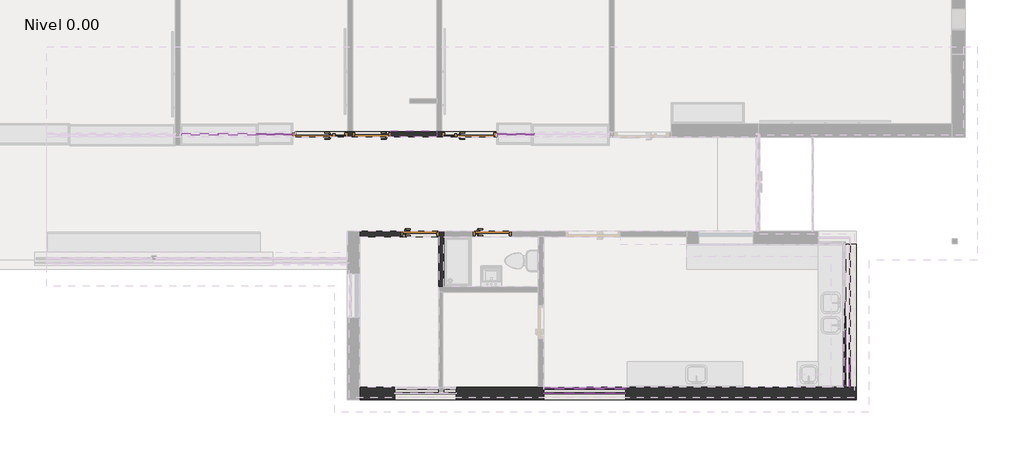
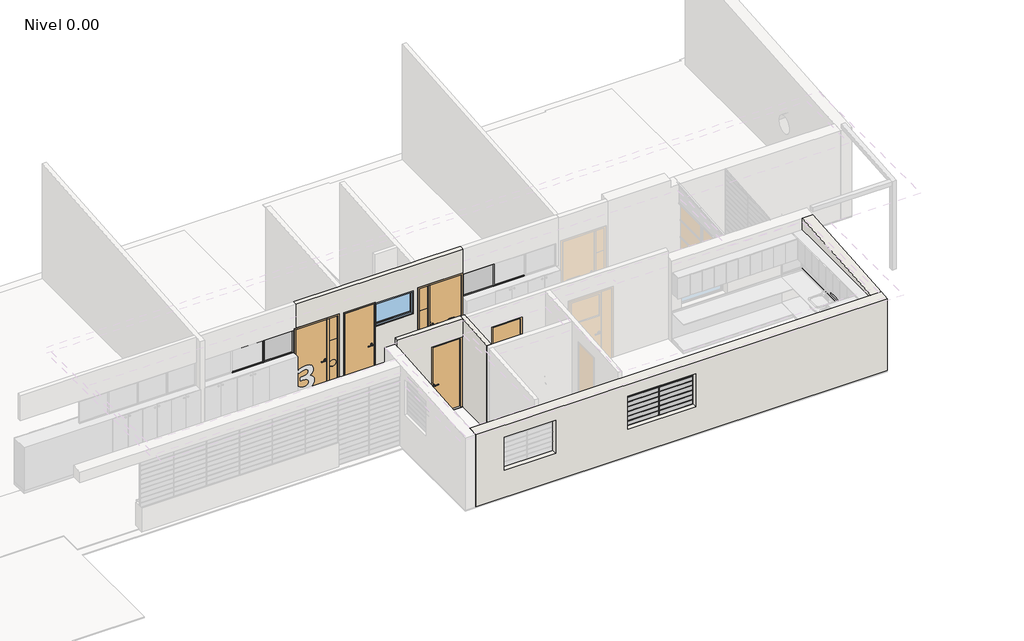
# One storey, part 9 of 27: 70 members, 27 plates, 5 doors, 5 walls, 1 window.
"""IFC4 building model written with IfcOpenShell, lengths in millimetres."""

from ifc_helpers import new_model, si_unit, origin, place, context, project, spatial, faceted_brep, transform, mapped, element, save
from components import puerta_c_02_04_c02_900x2100mm_8723c3b4, puerta_c_03_c03_1300x2100mm_be522cc0, puerta_c_03_c03_1300x2100mm_f842b1da, circular_mullion_db63050f, circular_mullion_800c9cf9, l_corner_mullion_7bb9dce8, l_corner_mullion_53c66c15, rectangular_mullion_97640366, rectangular_mullion_f4aebcd0, rectangular_mullion_6dd91873, rectangular_mullion_583ac604, rectangular_mullion_1f0e14fc, rectangular_mullion_1122452d, rectangular_mullion_4edd1dab, rectangular_mullion_5f2e1c77, rectangular_mullion_a87e72df, rectangular_mullion_5c6d569c, rectangular_mullion_931534db, rectangular_mullion_2d022f73, rectangular_mullion_e90513ae, rectangular_mullion_e335d830, rectangular_mullion_bfd1b04e, rectangular_mullion_af5448d7, rectangular_mullion_0e712f1e, rectangular_mullion_3ce97fec, system_panel_92242c99, system_panel_cfc7fda5, system_panel_57a81bb3, system_panel_e062d6e0, system_panel_glazed_a2efd868, system_panel_glazed_c003b5f8, system_panel_glazed_eadaaaed, system_panel_glazed_88139816, system_panel_glazed_9cce16fc, ventana_fija_1100x700mm_019d46d4

model = new_model("IFC4")

# Units and contexts
model_context = context("Model", 3, world=origin())
ifc_project = project(units=[si_unit("LENGTHUNIT", "METRE", prefix="MILLI")], contexts=[model_context])

# Site, building, storey
site = spatial("IfcSite", under=ifc_project)
building = spatial("IfcBuilding", under=site)
storey = spatial("IfcBuildingStorey", under=building, Name="Nivel 0.00", Elevation=0.0)

# Doors
placement = place(None, origin())
puerta_c_02_04_c02_900x2100mm_shape = puerta_c_02_04_c02_900x2100mm_8723c3b4(model_context)
element("IfcDoor", 1, ObjectType="PUERTA_C-02_04 : C02_900X2100mm", at=placement, inside=storey, context=model_context, shape_type="MappedRepresentation", body=[
    mapped(puerta_c_02_04_c02_900x2100mm_shape, transform((6673.7539617, -3156.9556693, 0.0), x_axis=(1.0, 0.0, 0.0), y_axis=(0.0, 1.0, 0.0), z_axis=(0.0, 0.0, 1.0))),
])
element("IfcDoor", 2, ObjectType="PUERTA_C-02_04 : C02_900X2100mm", at=placement, inside=storey, context=model_context, shape_type="MappedRepresentation", body=[
    mapped(puerta_c_02_04_c02_900x2100mm_shape, transform((3804.3810741, -774.2547653, 0.0), x_axis=(-1.0, 0.0, 0.0), y_axis=(0.0, -1.0, 0.0), z_axis=(0.0, 0.0, 1.0))),
])
element("IfcDoor", 3, ObjectType="PUERTA_C-02_04 : C04_900X2100mm", at=placement, inside=storey, context=model_context, shape_type="MappedRepresentation", body=[
    mapped(puerta_c_02_04_c02_900x2100mm_shape, transform((4949.9778804, -3156.9556693, 0.0), x_axis=(1.0, 0.0, 0.0), y_axis=(0.0, 1.0, 0.0), z_axis=(0.0, 0.0, 1.0))),
])
puerta_c_03_c03_1300x2100mm_shape = puerta_c_03_c03_1300x2100mm_be522cc0(model_context)
element("IfcDoor", 4, ObjectType="PUERTA_C-03 : C03_1300X2100mm", at=placement, inside=storey, context=model_context, shape_type="MappedRepresentation", body=[
    mapped(puerta_c_03_c03_1300x2100mm_shape, transform((2584.4310013, -774.2547653, 0.0), x_axis=(1.0, 0.0, 0.0), y_axis=(0.0, 1.0, 0.0), z_axis=(0.0, 0.0, 1.0))),
])
puerta_c_03_c03_1300x2100mm_2_shape = puerta_c_03_c03_1300x2100mm_f842b1da(model_context)
element("IfcDoor", 5, ObjectType="PUERTA_C-03 : C03_1300X2100mm", at=placement, inside=storey, context=model_context, shape_type="MappedRepresentation", body=[
    mapped(puerta_c_03_c03_1300x2100mm_2_shape, transform((6124.3567784, -774.2547653, 0.0), x_axis=(-1.0, 0.0, 0.0), y_axis=(0.0, -1.0, 0.0), z_axis=(0.0, 0.0, 1.0))),
])

# Members
circular_mullion_shape = circular_mullion_db63050f(model_context)
element("IfcMember", 6, ObjectType="Circular Mullion : ARQ_HERR_16mm", at=placement, inside=storey, context=model_context, shape_type="MappedRepresentation", body=[
    mapped(circular_mullion_shape, transform((8863.7685071, -6940.6055729, 942.8571429), x_axis=(0.0, 0.0, 1.0), y_axis=(0.0, -1.0, 0.0), z_axis=(1.0, 0.0, 0.0))),
])
element("IfcMember", 7, ObjectType="Circular Mullion : ARQ_HERR_16mm", at=placement, inside=storey, context=model_context, shape_type="MappedRepresentation", body=[
    mapped(circular_mullion_shape, transform((9837.2855196, -6940.6055729, 942.8571429), x_axis=(0.0, 0.0, 1.0), y_axis=(0.0, -1.0, 0.0), z_axis=(1.0, 0.0, 0.0))),
])
element("IfcMember", 8, ObjectType="Circular Mullion : ARQ_HERR_16mm", at=placement, inside=storey, context=model_context, shape_type="MappedRepresentation", body=[
    mapped(circular_mullion_shape, transform((8863.7685071, -6940.6055729, 1085.7142857), x_axis=(0.0, 0.0, 1.0), y_axis=(0.0, -1.0, 0.0), z_axis=(1.0, 0.0, 0.0))),
])
element("IfcMember", 9, ObjectType="Circular Mullion : ARQ_HERR_16mm", at=placement, inside=storey, context=model_context, shape_type="MappedRepresentation", body=[
    mapped(circular_mullion_shape, transform((9837.2855196, -6940.6055729, 1085.7142857), x_axis=(0.0, 0.0, 1.0), y_axis=(0.0, -1.0, 0.0), z_axis=(1.0, 0.0, 0.0))),
])
element("IfcMember", 10, ObjectType="Circular Mullion : ARQ_HERR_16mm", at=placement, inside=storey, context=model_context, shape_type="MappedRepresentation", body=[
    mapped(circular_mullion_shape, transform((8863.7685071, -6940.6055729, 1228.5714286), x_axis=(0.0, 0.0, 1.0), y_axis=(0.0, -1.0, 0.0), z_axis=(1.0, 0.0, 0.0))),
])
element("IfcMember", 11, ObjectType="Circular Mullion : ARQ_HERR_16mm", at=placement, inside=storey, context=model_context, shape_type="MappedRepresentation", body=[
    mapped(circular_mullion_shape, transform((9837.2855196, -6940.6055729, 1228.5714286), x_axis=(0.0, 0.0, 1.0), y_axis=(0.0, -1.0, 0.0), z_axis=(1.0, 0.0, 0.0))),
])
element("IfcMember", 12, ObjectType="Circular Mullion : ARQ_HERR_16mm", at=placement, inside=storey, context=model_context, shape_type="MappedRepresentation", body=[
    mapped(circular_mullion_shape, transform((8863.7685071, -6940.6055729, 1371.4285714), x_axis=(0.0, 0.0, 1.0), y_axis=(0.0, -1.0, 0.0), z_axis=(1.0, 0.0, 0.0))),
])
element("IfcMember", 13, ObjectType="Circular Mullion : ARQ_HERR_16mm", at=placement, inside=storey, context=model_context, shape_type="MappedRepresentation", body=[
    mapped(circular_mullion_shape, transform((9837.2855196, -6940.6055729, 1371.4285714), x_axis=(0.0, 0.0, 1.0), y_axis=(0.0, -1.0, 0.0), z_axis=(1.0, 0.0, 0.0))),
])
element("IfcMember", 14, ObjectType="Circular Mullion : ARQ_HERR_16mm", at=placement, inside=storey, context=model_context, shape_type="MappedRepresentation", body=[
    mapped(circular_mullion_shape, transform((8863.7685071, -6940.6055729, 1514.2857143), x_axis=(0.0, 0.0, 1.0), y_axis=(0.0, -1.0, 0.0), z_axis=(1.0, 0.0, 0.0))),
])
element("IfcMember", 15, ObjectType="Circular Mullion : ARQ_HERR_16mm", at=placement, inside=storey, context=model_context, shape_type="MappedRepresentation", body=[
    mapped(circular_mullion_shape, transform((9837.2855196, -6940.6055729, 1514.2857143), x_axis=(0.0, 0.0, 1.0), y_axis=(0.0, -1.0, 0.0), z_axis=(1.0, 0.0, 0.0))),
])
element("IfcMember", 16, ObjectType="Circular Mullion : ARQ_HERR_16mm", at=placement, inside=storey, context=model_context, shape_type="MappedRepresentation", body=[
    mapped(circular_mullion_shape, transform((8863.7685071, -6940.6055729, 1657.1428571), x_axis=(0.0, 0.0, 1.0), y_axis=(0.0, -1.0, 0.0), z_axis=(1.0, 0.0, 0.0))),
])
element("IfcMember", 17, ObjectType="Circular Mullion : ARQ_HERR_16mm", at=placement, inside=storey, context=model_context, shape_type="MappedRepresentation", body=[
    mapped(circular_mullion_shape, transform((9837.2855196, -6940.6055729, 1657.1428571), x_axis=(0.0, 0.0, 1.0), y_axis=(0.0, -1.0, 0.0), z_axis=(1.0, 0.0, 0.0))),
])
circular_mullion_2_shape = circular_mullion_800c9cf9(model_context)
element("IfcMember", 18, ObjectType="Circular Mullion : ARQ_HERR_16mm", at=placement, inside=storey, context=model_context, shape_type="MappedRepresentation", body=[
    mapped(circular_mullion_2_shape, transform((15175.5015264, -6081.6831077, 1087.5), x_axis=(0.0, 0.0, 1.0), y_axis=(1.0, 0.0, 0.0), z_axis=(0.0, 1.0, 0.0))),
])
element("IfcMember", 19, ObjectType="Circular Mullion : ARQ_HERR_16mm", at=placement, inside=storey, context=model_context, shape_type="MappedRepresentation", body=[
    mapped(circular_mullion_2_shape, transform((15175.5015264, -6081.6831077, 1225.0), x_axis=(0.0, 0.0, 1.0), y_axis=(1.0, 0.0, 0.0), z_axis=(0.0, 1.0, 0.0))),
])
element("IfcMember", 20, ObjectType="Circular Mullion : ARQ_HERR_16mm", at=placement, inside=storey, context=model_context, shape_type="MappedRepresentation", body=[
    mapped(circular_mullion_2_shape, transform((15175.5015264, -6081.6831077, 1362.5), x_axis=(0.0, 0.0, 1.0), y_axis=(1.0, 0.0, 0.0), z_axis=(0.0, 1.0, 0.0))),
])
l_corner_mullion_shape = l_corner_mullion_7bb9dce8(model_context)
element("IfcMember", 21, ObjectType="L Corner Mullion : ARQ_HERR_15X6mm", at=placement, inside=storey, context=model_context, shape_type="MappedRepresentation", body=[
    mapped(l_corner_mullion_shape, transform((9837.2855196, -6940.6055729, 1800.0), x_axis=(0.0, 0.0, 1.0), y_axis=(0.0, -1.0, 0.0), z_axis=(1.0, 0.0, 0.0))),
])
element("IfcMember", 22, ObjectType="L Corner Mullion : ARQ_HERR_15X6mm", at=placement, inside=storey, context=model_context, shape_type="MappedRepresentation", body=[
    mapped(l_corner_mullion_shape, transform((8863.7685071, -6940.6055729, 1800.0), x_axis=(0.0, 0.0, 1.0), y_axis=(0.0, -1.0, 0.0), z_axis=(1.0, 0.0, 0.0))),
])
element("IfcMember", 23, ObjectType="L Corner Mullion : ARQ_HERR_15X6mm", at=placement, inside=storey, context=model_context, shape_type="MappedRepresentation", body=[
    mapped(l_corner_mullion_shape, transform((8869.7685071, -6940.6055729, 800.0), x_axis=(0.0, 0.0, -1.0), y_axis=(0.0, -1.0, 0.0), z_axis=(-1.0, 0.0, 0.0))),
])
l_corner_mullion_2_shape = l_corner_mullion_53c66c15(model_context)
element("IfcMember", 24, ObjectType="L Corner Mullion : ARQ_HERR_15X6mm", at=placement, inside=storey, context=model_context, shape_type="MappedRepresentation", body=[
    mapped(l_corner_mullion_2_shape, transform((15175.5015264, -6081.6831077, 1500.0), x_axis=(0.0, 0.0, 1.0), y_axis=(1.0, 0.0, 0.0), z_axis=(0.0, 1.0, 0.0))),
])
element("IfcMember", 25, ObjectType="L Corner Mullion : ARQ_HERR_15X6mm", at=placement, inside=storey, context=model_context, shape_type="MappedRepresentation", body=[
    mapped(l_corner_mullion_2_shape, transform((15175.5015264, -6784.4379451, 950.0), x_axis=(0.0, 0.0, -1.0), y_axis=(1.0, 0.0, 0.0), z_axis=(0.0, -1.0, 0.0))),
])
element("IfcMember", 26, ObjectType="L Corner Mullion : ARQ_HERR_15X6mm", at=placement, inside=storey, context=model_context, shape_type="MappedRepresentation", body=[
    mapped(l_corner_mullion_2_shape, transform((15175.5015264, -6075.6831077, 950.0), x_axis=(0.0, 0.0, -1.0), y_axis=(1.0, 0.0, 0.0), z_axis=(0.0, -1.0, 0.0))),
])
rectangular_mullion_shape = rectangular_mullion_97640366(model_context)
element("IfcMember", 27, ObjectType="Rectangular Mullion : ARQ_TV_MULL_50x30mm", at=placement, inside=storey, context=model_context, shape_type="MappedRepresentation", body=[
    mapped(rectangular_mullion_shape, transform((15050.5015264, -6134.61721, 1500.0), x_axis=(0.0, 0.0, 1.0), y_axis=(1.0, 0.0, 0.0), z_axis=(0.0, 1.0, 0.0))),
])
rectangular_mullion_2_shape = rectangular_mullion_f4aebcd0(model_context)
element("IfcMember", 28, ObjectType="Rectangular Mullion : ARQ_TV_MULL_50x30mm", at=placement, inside=storey, context=model_context, shape_type="MappedRepresentation", body=[
    mapped(rectangular_mullion_2_shape, transform((15050.5015264, -5448.6288474, 1500.0), x_axis=(0.0, 0.0, 1.0), y_axis=(1.0, 0.0, 0.0), z_axis=(0.0, 1.0, 0.0))),
])
element("IfcMember", 29, ObjectType="Rectangular Mullion : ARQ_TV_MULL_50x30mm", at=placement, inside=storey, context=model_context, shape_type="MappedRepresentation", body=[
    mapped(rectangular_mullion_shape, transform((15050.5015264, -6760.6055729, 950.0), x_axis=(0.0, 0.0, -1.0), y_axis=(1.0, 0.0, 0.0), z_axis=(0.0, -1.0, 0.0))),
])
element("IfcMember", 30, ObjectType="Rectangular Mullion : ARQ_TV_MULL_50x30mm", at=placement, inside=storey, context=model_context, shape_type="MappedRepresentation", body=[
    mapped(rectangular_mullion_2_shape, transform((15050.5015264, -6104.61721, 950.0), x_axis=(0.0, 0.0, -1.0), y_axis=(1.0, 0.0, 0.0), z_axis=(0.0, -1.0, 0.0))),
])
rectangular_mullion_3_shape = rectangular_mullion_6dd91873(model_context)
element("IfcMember", 31, ObjectType="Rectangular Mullion : ARQ_TV_MULL_50x30mm", at=placement, inside=storey, context=model_context, shape_type="MappedRepresentation", body=[
    mapped(rectangular_mullion_3_shape, transform((15050.5015264, -6790.6055729, 1500.0), x_axis=(0.0, -1.0, 0.0), y_axis=(1.0, 0.0, 0.0), z_axis=(0.0, 0.0, 1.0))),
])
rectangular_mullion_4_shape = rectangular_mullion_583ac604(model_context)
element("IfcMember", 32, ObjectType="Rectangular Mullion : ARQ_TV_MULL_50x30mm", at=placement, inside=storey, context=model_context, shape_type="MappedRepresentation", body=[
    mapped(rectangular_mullion_4_shape, transform((15050.5015264, -6119.61721, 950.0), x_axis=(0.0, 1.0, 0.0), y_axis=(1.0, 0.0, 0.0), z_axis=(0.0, 0.0, -1.0))),
])
rectangular_mullion_5_shape = rectangular_mullion_1f0e14fc(model_context)
element("IfcMember", 33, ObjectType="Rectangular Mullion : ARQ_TV_MULL_50x30mm", at=placement, inside=storey, context=model_context, shape_type="MappedRepresentation", body=[
    mapped(rectangular_mullion_5_shape, transform((9813.2855196, -6815.6055729, 1800.0), x_axis=(0.0, 0.0, 1.0), y_axis=(0.0, -1.0, 0.0), z_axis=(1.0, 0.0, 0.0))),
])
element("IfcMember", 34, ObjectType="Rectangular Mullion : ARQ_TV_MULL_50x30mm", at=placement, inside=storey, context=model_context, shape_type="MappedRepresentation", body=[
    mapped(rectangular_mullion_5_shape, transform((8851.7685071, -6815.6055729, 1800.0), x_axis=(0.0, 0.0, 1.0), y_axis=(0.0, -1.0, 0.0), z_axis=(1.0, 0.0, 0.0))),
])
element("IfcMember", 35, ObjectType="Rectangular Mullion : ARQ_TV_MULL_50x30mm", at=placement, inside=storey, context=model_context, shape_type="MappedRepresentation", body=[
    mapped(rectangular_mullion_5_shape, transform((8881.7685071, -6815.6055729, 800.0), x_axis=(0.0, 0.0, -1.0), y_axis=(0.0, -1.0, 0.0), z_axis=(-1.0, 0.0, 0.0))),
])
rectangular_mullion_6_shape = rectangular_mullion_1122452d(model_context)
element("IfcMember", 36, ObjectType="Rectangular Mullion : ARQ_TV_MULL_50x30mm", at=placement, inside=storey, context=model_context, shape_type="MappedRepresentation", body=[
    mapped(rectangular_mullion_6_shape, transform((8851.7685071, -6815.6055729, 1300.0), x_axis=(0.0, 0.0, 1.0), y_axis=(0.0, -1.0, 0.0), z_axis=(1.0, 0.0, 0.0))),
])
element("IfcMember", 37, ObjectType="Rectangular Mullion : ARQ_TV_MULL_50x30mm", at=placement, inside=storey, context=model_context, shape_type="MappedRepresentation", body=[
    mapped(rectangular_mullion_6_shape, transform((9813.2855196, -6815.6055729, 1300.0), x_axis=(0.0, 0.0, 1.0), y_axis=(0.0, -1.0, 0.0), z_axis=(1.0, 0.0, 0.0))),
])
rectangular_mullion_7_shape = rectangular_mullion_4edd1dab(model_context)
element("IfcMember", 38, ObjectType="Rectangular Mullion : ARQ_TV_MULL_50x30mm", at=placement, inside=storey, context=model_context, shape_type="MappedRepresentation", body=[
    mapped(rectangular_mullion_7_shape, transform((8866.7685071, -6815.6055729, 800.0), x_axis=(1.0, 0.0, 0.0), y_axis=(0.0, -1.0, 0.0), z_axis=(0.0, 0.0, -1.0))),
])
element("IfcMember", 39, ObjectType="Rectangular Mullion : ARQ_TV_MULL_50x30mm", at=placement, inside=storey, context=model_context, shape_type="MappedRepresentation", body=[
    mapped(rectangular_mullion_7_shape, transform((8866.7685071, -6815.6055729, 1300.0), x_axis=(1.0, 0.0, 0.0), y_axis=(0.0, -1.0, 0.0), z_axis=(0.0, 0.0, -1.0))),
])
rectangular_mullion_8_shape = rectangular_mullion_5f2e1c77(model_context)
element("IfcMember", 40, ObjectType="Rectangular Mullion : ARQ_TV_MULL_50x30mm", at=placement, inside=storey, context=model_context, shape_type="MappedRepresentation", body=[
    mapped(rectangular_mullion_8_shape, transform((9843.2855196, -6815.6055729, 800.0), x_axis=(1.0, 0.0, 0.0), y_axis=(0.0, -1.0, 0.0), z_axis=(0.0, 0.0, -1.0))),
])
element("IfcMember", 41, ObjectType="Rectangular Mullion : ARQ_TV_MULL_50x30mm", at=placement, inside=storey, context=model_context, shape_type="MappedRepresentation", body=[
    mapped(rectangular_mullion_8_shape, transform((9843.2855196, -6815.6055729, 1300.0), x_axis=(1.0, 0.0, 0.0), y_axis=(0.0, -1.0, 0.0), z_axis=(0.0, 0.0, -1.0))),
])
rectangular_mullion_9_shape = rectangular_mullion_a87e72df(model_context)
element("IfcMember", 42, ObjectType="Rectangular Mullion : ARQ_TV_MULL_50x30mm", at=placement, inside=storey, context=model_context, shape_type="MappedRepresentation", body=[
    mapped(rectangular_mullion_9_shape, transform((1079.4306871, -780.6047653, 1400.0), x_axis=(1.0, 0.0, 0.0), y_axis=(0.0, -1.0, 0.0), z_axis=(0.0, 0.0, -1.0))),
])
element("IfcMember", 43, ObjectType="Rectangular Mullion : ARQ_TV_MULL_50x30mm", at=placement, inside=storey, context=model_context, shape_type="MappedRepresentation", body=[
    mapped(rectangular_mullion_9_shape, transform((7682.6901119, -780.6047653, 1400.0), x_axis=(1.0, 0.0, 0.0), y_axis=(0.0, -1.0, 0.0), z_axis=(0.0, 0.0, -1.0))),
])
rectangular_mullion_10_shape = rectangular_mullion_5c6d569c(model_context)
element("IfcMember", 44, ObjectType="Rectangular Mullion : ARQ_TV_MULL_50x30mm", at=placement, inside=storey, context=model_context, shape_type="MappedRepresentation", body=[
    mapped(rectangular_mullion_10_shape, transform((1934.4310013, -780.6047653, 1400.0), x_axis=(1.0, 0.0, 0.0), y_axis=(0.0, -1.0, 0.0), z_axis=(0.0, 0.0, -1.0))),
])
element("IfcMember", 45, ObjectType="Rectangular Mullion : ARQ_TV_MULL_50x30mm", at=placement, inside=storey, context=model_context, shape_type="MappedRepresentation", body=[
    mapped(rectangular_mullion_10_shape, transform((6774.3567784, -780.6047653, 2100.0), x_axis=(-1.0, 0.0, 0.0), y_axis=(0.0, -1.0, 0.0), z_axis=(0.0, 0.0, 1.0))),
])
rectangular_mullion_11_shape = rectangular_mullion_931534db(model_context)
element("IfcMember", 46, ObjectType="Rectangular Mullion : ARQ_TV_MULL_50x30mm", at=placement, inside=storey, context=model_context, shape_type="MappedRepresentation", body=[
    mapped(rectangular_mullion_11_shape, transform((1904.4310013, -780.6047653, 2100.0), x_axis=(0.0, 0.0, 1.0), y_axis=(0.0, -1.0, 0.0), z_axis=(1.0, 0.0, 0.0))),
])
rectangular_mullion_12_shape = rectangular_mullion_2d022f73(model_context)
element("IfcMember", 47, ObjectType="Rectangular Mullion : ARQ_TV_MULL_50x30mm", at=placement, inside=storey, context=model_context, shape_type="MappedRepresentation", body=[
    mapped(rectangular_mullion_12_shape, transform((144.4306873, -780.6047653, 2100.0), x_axis=(0.0, 0.0, 1.0), y_axis=(0.0, -1.0, 0.0), z_axis=(1.0, 0.0, 0.0))),
])
rectangular_mullion_13_shape = rectangular_mullion_e90513ae(model_context)
element("IfcMember", 48, ObjectType="Rectangular Mullion : ARQ_TV_MULL_50x30mm", at=placement, inside=storey, context=model_context, shape_type="MappedRepresentation", body=[
    mapped(rectangular_mullion_13_shape, transform((1064.4306871, -780.6047653, 2100.0), x_axis=(0.0, 0.0, 1.0), y_axis=(0.0, -1.0, 0.0), z_axis=(1.0, 0.0, 0.0))),
])
element("IfcMember", 49, ObjectType="Rectangular Mullion : ARQ_TV_MULL_50x30mm", at=placement, inside=storey, context=model_context, shape_type="MappedRepresentation", body=[
    mapped(rectangular_mullion_13_shape, transform((174.4306873, -780.6047653, 1400.0), x_axis=(0.0, 0.0, -1.0), y_axis=(0.0, -1.0, 0.0), z_axis=(-1.0, 0.0, 0.0))),
])
element("IfcMember", 50, ObjectType="Rectangular Mullion : ARQ_TV_MULL_50x30mm", at=placement, inside=storey, context=model_context, shape_type="MappedRepresentation", body=[
    mapped(rectangular_mullion_11_shape, transform((1094.4306871, -780.6047653, 1400.0), x_axis=(0.0, 0.0, -1.0), y_axis=(0.0, -1.0, 0.0), z_axis=(-1.0, 0.0, 0.0))),
])
rectangular_mullion_14_shape = rectangular_mullion_e335d830(model_context)
element("IfcMember", 51, ObjectType="Rectangular Mullion : ARQ_TV_MULL_50x30mm", at=placement, inside=storey, context=model_context, shape_type="MappedRepresentation", body=[
    mapped(rectangular_mullion_14_shape, transform((7667.6901119, -780.6047653, 2100.0), x_axis=(0.0, 0.0, 1.0), y_axis=(0.0, -1.0, 0.0), z_axis=(1.0, 0.0, 0.0))),
])
element("IfcMember", 52, ObjectType="Rectangular Mullion : ARQ_TV_MULL_50x30mm", at=placement, inside=storey, context=model_context, shape_type="MappedRepresentation", body=[
    mapped(rectangular_mullion_14_shape, transform((6804.3567784, -780.6047653, 1400.0), x_axis=(0.0, 0.0, -1.0), y_axis=(0.0, -1.0, 0.0), z_axis=(-1.0, 0.0, 0.0))),
])
element("IfcMember", 53, ObjectType="Rectangular Mullion : ARQ_TV_MULL_50x30mm", at=placement, inside=storey, context=model_context, shape_type="MappedRepresentation", body=[
    mapped(rectangular_mullion_14_shape, transform((7697.6901119, -780.6047653, 1400.0), x_axis=(0.0, 0.0, -1.0), y_axis=(0.0, -1.0, 0.0), z_axis=(-1.0, 0.0, 0.0))),
])
rectangular_mullion_15_shape = rectangular_mullion_bfd1b04e(model_context)
element("IfcMember", 54, ObjectType="Rectangular Mullion : ARQ_HERR_15X6mm", at=placement, inside=storey, context=model_context, shape_type="MappedRepresentation", body=[
    mapped(rectangular_mullion_15_shape, transform((8866.7685071, -6940.6055729, 800.0), x_axis=(1.0, 0.0, 0.0), y_axis=(0.0, -1.0, 0.0), z_axis=(0.0, 0.0, -1.0))),
])
element("IfcMember", 55, ObjectType="Rectangular Mullion : ARQ_HERR_15X6mm", at=placement, inside=storey, context=model_context, shape_type="MappedRepresentation", body=[
    mapped(rectangular_mullion_15_shape, transform((8866.7685071, -6940.6055729, 942.8571429), x_axis=(1.0, 0.0, 0.0), y_axis=(0.0, -1.0, 0.0), z_axis=(0.0, 0.0, -1.0))),
])
element("IfcMember", 56, ObjectType="Rectangular Mullion : ARQ_HERR_15X6mm", at=placement, inside=storey, context=model_context, shape_type="MappedRepresentation", body=[
    mapped(rectangular_mullion_15_shape, transform((8866.7685071, -6940.6055729, 1085.7142857), x_axis=(1.0, 0.0, 0.0), y_axis=(0.0, -1.0, 0.0), z_axis=(0.0, 0.0, -1.0))),
])
element("IfcMember", 57, ObjectType="Rectangular Mullion : ARQ_HERR_15X6mm", at=placement, inside=storey, context=model_context, shape_type="MappedRepresentation", body=[
    mapped(rectangular_mullion_15_shape, transform((8866.7685071, -6940.6055729, 1228.5714286), x_axis=(1.0, 0.0, 0.0), y_axis=(0.0, -1.0, 0.0), z_axis=(0.0, 0.0, -1.0))),
])
element("IfcMember", 58, ObjectType="Rectangular Mullion : ARQ_HERR_15X6mm", at=placement, inside=storey, context=model_context, shape_type="MappedRepresentation", body=[
    mapped(rectangular_mullion_15_shape, transform((8866.7685071, -6940.6055729, 1371.4285714), x_axis=(1.0, 0.0, 0.0), y_axis=(0.0, -1.0, 0.0), z_axis=(0.0, 0.0, -1.0))),
])
element("IfcMember", 59, ObjectType="Rectangular Mullion : ARQ_HERR_15X6mm", at=placement, inside=storey, context=model_context, shape_type="MappedRepresentation", body=[
    mapped(rectangular_mullion_15_shape, transform((8866.7685071, -6940.6055729, 1514.2857143), x_axis=(1.0, 0.0, 0.0), y_axis=(0.0, -1.0, 0.0), z_axis=(0.0, 0.0, -1.0))),
])
element("IfcMember", 60, ObjectType="Rectangular Mullion : ARQ_HERR_15X6mm", at=placement, inside=storey, context=model_context, shape_type="MappedRepresentation", body=[
    mapped(rectangular_mullion_15_shape, transform((8866.7685071, -6940.6055729, 1657.1428571), x_axis=(1.0, 0.0, 0.0), y_axis=(0.0, -1.0, 0.0), z_axis=(0.0, 0.0, -1.0))),
])
rectangular_mullion_16_shape = rectangular_mullion_af5448d7(model_context)
element("IfcMember", 61, ObjectType="Rectangular Mullion : ARQ_HERR_15X6mm", at=placement, inside=storey, context=model_context, shape_type="MappedRepresentation", body=[
    mapped(rectangular_mullion_16_shape, transform((9843.2855196, -6940.6055729, 800.0), x_axis=(1.0, 0.0, 0.0), y_axis=(0.0, -1.0, 0.0), z_axis=(0.0, 0.0, -1.0))),
])
element("IfcMember", 62, ObjectType="Rectangular Mullion : ARQ_HERR_15X6mm", at=placement, inside=storey, context=model_context, shape_type="MappedRepresentation", body=[
    mapped(rectangular_mullion_16_shape, transform((9843.2855196, -6940.6055729, 942.8571429), x_axis=(1.0, 0.0, 0.0), y_axis=(0.0, -1.0, 0.0), z_axis=(0.0, 0.0, -1.0))),
])
element("IfcMember", 63, ObjectType="Rectangular Mullion : ARQ_HERR_15X6mm", at=placement, inside=storey, context=model_context, shape_type="MappedRepresentation", body=[
    mapped(rectangular_mullion_16_shape, transform((9843.2855196, -6940.6055729, 1085.7142857), x_axis=(1.0, 0.0, 0.0), y_axis=(0.0, -1.0, 0.0), z_axis=(0.0, 0.0, -1.0))),
])
element("IfcMember", 64, ObjectType="Rectangular Mullion : ARQ_HERR_15X6mm", at=placement, inside=storey, context=model_context, shape_type="MappedRepresentation", body=[
    mapped(rectangular_mullion_16_shape, transform((9843.2855196, -6940.6055729, 1228.5714286), x_axis=(1.0, 0.0, 0.0), y_axis=(0.0, -1.0, 0.0), z_axis=(0.0, 0.0, -1.0))),
])
element("IfcMember", 65, ObjectType="Rectangular Mullion : ARQ_HERR_15X6mm", at=placement, inside=storey, context=model_context, shape_type="MappedRepresentation", body=[
    mapped(rectangular_mullion_16_shape, transform((9843.2855196, -6940.6055729, 1371.4285714), x_axis=(1.0, 0.0, 0.0), y_axis=(0.0, -1.0, 0.0), z_axis=(0.0, 0.0, -1.0))),
])
element("IfcMember", 66, ObjectType="Rectangular Mullion : ARQ_HERR_15X6mm", at=placement, inside=storey, context=model_context, shape_type="MappedRepresentation", body=[
    mapped(rectangular_mullion_16_shape, transform((9843.2855196, -6940.6055729, 1514.2857143), x_axis=(1.0, 0.0, 0.0), y_axis=(0.0, -1.0, 0.0), z_axis=(0.0, 0.0, -1.0))),
])
element("IfcMember", 67, ObjectType="Rectangular Mullion : ARQ_HERR_15X6mm", at=placement, inside=storey, context=model_context, shape_type="MappedRepresentation", body=[
    mapped(rectangular_mullion_16_shape, transform((9843.2855196, -6940.6055729, 1657.1428571), x_axis=(1.0, 0.0, 0.0), y_axis=(0.0, -1.0, 0.0), z_axis=(0.0, 0.0, -1.0))),
])
rectangular_mullion_17_shape = rectangular_mullion_0e712f1e(model_context)
element("IfcMember", 68, ObjectType="Rectangular Mullion : ARQ_HERR_15X6mm", at=placement, inside=storey, context=model_context, shape_type="MappedRepresentation", body=[
    mapped(rectangular_mullion_17_shape, transform((15175.5015264, -6078.6831077, 950.0), x_axis=(0.0, 1.0, 0.0), y_axis=(1.0, 0.0, 0.0), z_axis=(0.0, 0.0, -1.0))),
])
element("IfcMember", 69, ObjectType="Rectangular Mullion : ARQ_HERR_15X6mm", at=placement, inside=storey, context=model_context, shape_type="MappedRepresentation", body=[
    mapped(rectangular_mullion_17_shape, transform((15175.5015264, -6078.6831077, 1087.5), x_axis=(0.0, 1.0, 0.0), y_axis=(1.0, 0.0, 0.0), z_axis=(0.0, 0.0, -1.0))),
])
element("IfcMember", 70, ObjectType="Rectangular Mullion : ARQ_HERR_15X6mm", at=placement, inside=storey, context=model_context, shape_type="MappedRepresentation", body=[
    mapped(rectangular_mullion_17_shape, transform((15175.5015264, -6078.6831077, 1225.0), x_axis=(0.0, 1.0, 0.0), y_axis=(1.0, 0.0, 0.0), z_axis=(0.0, 0.0, -1.0))),
])
element("IfcMember", 71, ObjectType="Rectangular Mullion : ARQ_HERR_15X6mm", at=placement, inside=storey, context=model_context, shape_type="MappedRepresentation", body=[
    mapped(rectangular_mullion_17_shape, transform((15175.5015264, -6078.6831077, 1362.5), x_axis=(0.0, 1.0, 0.0), y_axis=(1.0, 0.0, 0.0), z_axis=(0.0, 0.0, -1.0))),
])
rectangular_mullion_18_shape = rectangular_mullion_3ce97fec(model_context)
element("IfcMember", 72, ObjectType="Rectangular Mullion : ARQ_HERR_15X6mm", at=placement, inside=storey, context=model_context, shape_type="MappedRepresentation", body=[
    mapped(rectangular_mullion_18_shape, transform((15175.5015264, -6790.4379451, 1500.0), x_axis=(0.0, -1.0, 0.0), y_axis=(1.0, 0.0, 0.0), z_axis=(0.0, 0.0, 1.0))),
])
element("IfcMember", 73, ObjectType="Rectangular Mullion : ARQ_HERR_15X6mm", at=placement, inside=storey, context=model_context, shape_type="MappedRepresentation", body=[
    mapped(rectangular_mullion_18_shape, transform((15175.5015264, -6790.4379451, 1087.5), x_axis=(0.0, -1.0, 0.0), y_axis=(1.0, 0.0, 0.0), z_axis=(0.0, 0.0, 1.0))),
])
element("IfcMember", 74, ObjectType="Rectangular Mullion : ARQ_HERR_15X6mm", at=placement, inside=storey, context=model_context, shape_type="MappedRepresentation", body=[
    mapped(rectangular_mullion_18_shape, transform((15175.5015264, -6790.4379451, 1225.0), x_axis=(0.0, -1.0, 0.0), y_axis=(1.0, 0.0, 0.0), z_axis=(0.0, 0.0, 1.0))),
])
element("IfcMember", 75, ObjectType="Rectangular Mullion : ARQ_HERR_15X6mm", at=placement, inside=storey, context=model_context, shape_type="MappedRepresentation", body=[
    mapped(rectangular_mullion_18_shape, transform((15175.5015264, -6790.4379451, 1362.5), x_axis=(0.0, -1.0, 0.0), y_axis=(1.0, 0.0, 0.0), z_axis=(0.0, 0.0, 1.0))),
])

# Plates
system_panel_shape = system_panel_92242c99(model_context)
element("IfcPlate", 76, ObjectType="System Panel : VACÍO", at=placement, inside=storey, context=model_context, shape_type="MappedRepresentation", body=[
    mapped(system_panel_shape, transform((15175.5015264, -6433.0605264, 956.0), x_axis=(0.0, 1.0, 0.0), y_axis=(-1.0, 0.0, 0.0), z_axis=(0.0, 0.0, 1.0))),
])
element("IfcPlate", 77, ObjectType="System Panel : VACÍO", at=placement, inside=storey, context=model_context, shape_type="MappedRepresentation", body=[
    mapped(system_panel_shape, transform((15175.5015264, -6433.0605264, 1370.5), x_axis=(0.0, 1.0, 0.0), y_axis=(-1.0, 0.0, 0.0), z_axis=(0.0, 0.0, 1.0))),
])
system_panel_2_shape = system_panel_cfc7fda5(model_context)
element("IfcPlate", 78, ObjectType="System Panel : VACÍO", at=placement, inside=storey, context=model_context, shape_type="MappedRepresentation", body=[
    mapped(system_panel_2_shape, transform((8380.0100008, -6940.6055729, 806.0), x_axis=(1.0, 0.0, 0.0), y_axis=(0.0, 1.0, 0.0), z_axis=(0.0, 0.0, 1.0))),
])
element("IfcPlate", 79, ObjectType="System Panel : VACÍO", at=placement, inside=storey, context=model_context, shape_type="MappedRepresentation", body=[
    mapped(system_panel_2_shape, transform((9353.5270133, -6940.6055729, 806.0), x_axis=(1.0, 0.0, 0.0), y_axis=(0.0, 1.0, 0.0), z_axis=(0.0, 0.0, 1.0))),
])
element("IfcPlate", 80, ObjectType="System Panel : VACÍO", at=placement, inside=storey, context=model_context, shape_type="MappedRepresentation", body=[
    mapped(system_panel_2_shape, transform((8380.0100008, -6940.6055729, 1665.1428571), x_axis=(1.0, 0.0, 0.0), y_axis=(0.0, 1.0, 0.0), z_axis=(0.0, 0.0, 1.0))),
])
element("IfcPlate", 81, ObjectType="System Panel : VACÍO", at=placement, inside=storey, context=model_context, shape_type="MappedRepresentation", body=[
    mapped(system_panel_2_shape, transform((9353.5270133, -6940.6055729, 1665.1428571), x_axis=(1.0, 0.0, 0.0), y_axis=(0.0, 1.0, 0.0), z_axis=(0.0, 0.0, 1.0))),
])
system_panel_3_shape = system_panel_57a81bb3(model_context)
element("IfcPlate", 82, ObjectType="System Panel : VACÍO", at=placement, inside=storey, context=model_context, shape_type="MappedRepresentation", body=[
    mapped(system_panel_3_shape, transform((8380.0100008, -6940.6055729, 950.8571429), x_axis=(1.0, 0.0, 0.0), y_axis=(0.0, 1.0, 0.0), z_axis=(0.0, 0.0, 1.0))),
])
element("IfcPlate", 83, ObjectType="System Panel : VACÍO", at=placement, inside=storey, context=model_context, shape_type="MappedRepresentation", body=[
    mapped(system_panel_3_shape, transform((9353.5270133, -6940.6055729, 950.8571429), x_axis=(1.0, 0.0, 0.0), y_axis=(0.0, 1.0, 0.0), z_axis=(0.0, 0.0, 1.0))),
])
element("IfcPlate", 84, ObjectType="System Panel : VACÍO", at=placement, inside=storey, context=model_context, shape_type="MappedRepresentation", body=[
    mapped(system_panel_3_shape, transform((8380.0100008, -6940.6055729, 1093.7142857), x_axis=(1.0, 0.0, 0.0), y_axis=(0.0, 1.0, 0.0), z_axis=(0.0, 0.0, 1.0))),
])
element("IfcPlate", 85, ObjectType="System Panel : VACÍO", at=placement, inside=storey, context=model_context, shape_type="MappedRepresentation", body=[
    mapped(system_panel_3_shape, transform((9353.5270133, -6940.6055729, 1093.7142857), x_axis=(1.0, 0.0, 0.0), y_axis=(0.0, 1.0, 0.0), z_axis=(0.0, 0.0, 1.0))),
])
element("IfcPlate", 86, ObjectType="System Panel : VACÍO", at=placement, inside=storey, context=model_context, shape_type="MappedRepresentation", body=[
    mapped(system_panel_3_shape, transform((8380.0100008, -6940.6055729, 1236.5714286), x_axis=(1.0, 0.0, 0.0), y_axis=(0.0, 1.0, 0.0), z_axis=(0.0, 0.0, 1.0))),
])
element("IfcPlate", 87, ObjectType="System Panel : VACÍO", at=placement, inside=storey, context=model_context, shape_type="MappedRepresentation", body=[
    mapped(system_panel_3_shape, transform((9353.5270133, -6940.6055729, 1236.5714286), x_axis=(1.0, 0.0, 0.0), y_axis=(0.0, 1.0, 0.0), z_axis=(0.0, 0.0, 1.0))),
])
element("IfcPlate", 88, ObjectType="System Panel : VACÍO", at=placement, inside=storey, context=model_context, shape_type="MappedRepresentation", body=[
    mapped(system_panel_3_shape, transform((8380.0100008, -6940.6055729, 1379.4285714), x_axis=(1.0, 0.0, 0.0), y_axis=(0.0, 1.0, 0.0), z_axis=(0.0, 0.0, 1.0))),
])
element("IfcPlate", 89, ObjectType="System Panel : VACÍO", at=placement, inside=storey, context=model_context, shape_type="MappedRepresentation", body=[
    mapped(system_panel_3_shape, transform((9353.5270133, -6940.6055729, 1379.4285714), x_axis=(1.0, 0.0, 0.0), y_axis=(0.0, 1.0, 0.0), z_axis=(0.0, 0.0, 1.0))),
])
element("IfcPlate", 90, ObjectType="System Panel : VACÍO", at=placement, inside=storey, context=model_context, shape_type="MappedRepresentation", body=[
    mapped(system_panel_3_shape, transform((8380.0100008, -6940.6055729, 1522.2857143), x_axis=(1.0, 0.0, 0.0), y_axis=(0.0, 1.0, 0.0), z_axis=(0.0, 0.0, 1.0))),
])
element("IfcPlate", 91, ObjectType="System Panel : VACÍO", at=placement, inside=storey, context=model_context, shape_type="MappedRepresentation", body=[
    mapped(system_panel_3_shape, transform((9353.5270133, -6940.6055729, 1522.2857143), x_axis=(1.0, 0.0, 0.0), y_axis=(0.0, 1.0, 0.0), z_axis=(0.0, 0.0, 1.0))),
])
system_panel_4_shape = system_panel_e062d6e0(model_context)
element("IfcPlate", 92, ObjectType="System Panel : VACÍO", at=placement, inside=storey, context=model_context, shape_type="MappedRepresentation", body=[
    mapped(system_panel_4_shape, transform((15175.5015264, -6433.0605264, 1095.5), x_axis=(0.0, 1.0, 0.0), y_axis=(-1.0, 0.0, 0.0), z_axis=(0.0, 0.0, 1.0))),
])
element("IfcPlate", 93, ObjectType="System Panel : VACÍO", at=placement, inside=storey, context=model_context, shape_type="MappedRepresentation", body=[
    mapped(system_panel_4_shape, transform((15175.5015264, -6433.0605264, 1233.0), x_axis=(0.0, 1.0, 0.0), y_axis=(-1.0, 0.0, 0.0), z_axis=(0.0, 0.0, 1.0))),
])
system_panel_glazed_shape = system_panel_glazed_a2efd868(model_context)
element("IfcPlate", 94, ObjectType="System Panel : Glazed", at=placement, inside=storey, context=model_context, shape_type="MappedRepresentation", body=[
    mapped(system_panel_glazed_shape, transform((15050.5015264, -6447.6113914, 980.0), x_axis=(0.0, 1.0, 0.0), y_axis=(-1.0, 0.0, 0.0), z_axis=(0.0, 0.0, 1.0))),
])
system_panel_glazed_2_shape = system_panel_glazed_c003b5f8(model_context)
element("IfcPlate", 95, ObjectType="System Panel : Glazed", at=placement, inside=storey, context=model_context, shape_type="MappedRepresentation", body=[
    mapped(system_panel_glazed_2_shape, transform((15050.5015264, -5776.6230287, 980.0), x_axis=(0.0, 1.0, 0.0), y_axis=(-1.0, 0.0, 0.0), z_axis=(0.0, 0.0, 1.0))),
])
element("IfcPlate", 96, ObjectType="System Panel : Glazed", at=placement, inside=storey, context=model_context, shape_type="MappedRepresentation", body=[
    mapped(system_panel_glazed_2_shape, transform((15050.5015264, -5090.6346661, 980.0), x_axis=(0.0, 1.0, 0.0), y_axis=(-1.0, 0.0, 0.0), z_axis=(0.0, 0.0, 1.0))),
])
system_panel_glazed_3_shape = system_panel_glazed_eadaaaed(model_context)
element("IfcPlate", 97, ObjectType="System Panel : Glazed", at=placement, inside=storey, context=model_context, shape_type="MappedRepresentation", body=[
    mapped(system_panel_glazed_3_shape, transform((8386.0100008, -6815.6055729, 830.0), x_axis=(1.0, 0.0, 0.0), y_axis=(0.0, 1.0, 0.0), z_axis=(0.0, 0.0, 1.0))),
])
element("IfcPlate", 98, ObjectType="System Panel : Glazed", at=placement, inside=storey, context=model_context, shape_type="MappedRepresentation", body=[
    mapped(system_panel_glazed_3_shape, transform((9347.5270133, -6815.6055729, 830.0), x_axis=(1.0, 0.0, 0.0), y_axis=(0.0, 1.0, 0.0), z_axis=(0.0, 0.0, 1.0))),
])
element("IfcPlate", 99, ObjectType="System Panel : Glazed", at=placement, inside=storey, context=model_context, shape_type="MappedRepresentation", body=[
    mapped(system_panel_glazed_3_shape, transform((8386.0100008, -6815.6055729, 1315.0), x_axis=(1.0, 0.0, 0.0), y_axis=(0.0, 1.0, 0.0), z_axis=(0.0, 0.0, 1.0))),
])
element("IfcPlate", 100, ObjectType="System Panel : Glazed", at=placement, inside=storey, context=model_context, shape_type="MappedRepresentation", body=[
    mapped(system_panel_glazed_3_shape, transform((9347.5270133, -6815.6055729, 1315.0), x_axis=(1.0, 0.0, 0.0), y_axis=(0.0, 1.0, 0.0), z_axis=(0.0, 0.0, 1.0))),
])
system_panel_glazed_4_shape = system_panel_glazed_88139816(model_context)
element("IfcPlate", 101, ObjectType="System Panel : Glazed", at=placement, inside=storey, context=model_context, shape_type="MappedRepresentation", body=[
    mapped(system_panel_glazed_4_shape, transform((1499.4308442, -780.6047653, 1430.0), x_axis=(1.0, 0.0, 0.0), y_axis=(0.0, 1.0, 0.0), z_axis=(0.0, 0.0, 1.0))),
])
system_panel_glazed_5_shape = system_panel_glazed_9cce16fc(model_context)
element("IfcPlate", 102, ObjectType="System Panel : Glazed", at=placement, inside=storey, context=model_context, shape_type="MappedRepresentation", body=[
    mapped(system_panel_glazed_5_shape, transform((7236.0234451, -780.6047653, 1430.0), x_axis=(1.0, 0.0, 0.0), y_axis=(0.0, 1.0, 0.0), z_axis=(0.0, 0.0, 1.0))),
])

# Walls
element("IfcWall", 103, ObjectType="ARQ_MUR_M02-V_300mm", at=placement, inside=storey, context=model_context, shape_type="Brep", body=[
    faceted_brep([(3527.1464348, -7090.6055729, -20.0), (15325.5015264, -7090.6055729, -20.0), (15325.5015264, -7090.6055729, 2163.4984529), (3527.1464348, -7090.6055729, 2163.4984529), (4350.213835, -7090.6055729, 800.0), (4350.213835, -7090.6055729, 1800.0), (5399.9777624, -7090.6055729, 1800.0), (5519.9777624, -7090.6055729, 1800.0), (5818.63943, -7090.6055729, 1800.0), (5818.63943, -7090.6055729, 800.0), (5519.9777624, -7090.6055729, 800.0), (5399.9777624, -7090.6055729, 800.0), (7890.2514946, -7090.6055729, 1800.0), (9843.2855196, -7090.6055729, 1800.0), (9843.2855196, -7090.6055729, 800.0), (7890.2514946, -7090.6055729, 800.0), (15325.5015264, -6790.6055729, -20.0), (15025.5015264, -6790.6055729, -20.0), (7889.9777626, -6790.6055729, -20.0), (7769.9777626, -6790.6055729, -20.0), (5499.9777624, -6790.6055729, -20.0), (5399.9777624, -6790.6055729, -20.0), (3527.1464348, -6790.6055729, -20.0), (3527.1464348, -6790.6055729, 2187.650202), (15025.5015264, -6790.6055729, 2187.650202), (15325.5015264, -6790.6055729, 2187.650202), (15325.5015264, -6790.6055729, 1500.0), (15325.5015264, -6790.6055729, 950.0), (4350.213835, -6790.6055729, 1800.0), (4350.213835, -6790.6055729, 800.0), (5399.9777624, -6790.6055729, 800.0), (5519.9777624, -6790.6055729, 800.0), (5818.63943, -6790.6055729, 800.0), (5818.63943, -6790.6055729, 1800.0), (5519.9777624, -6790.6055729, 1800.0), (5399.9777624, -6790.6055729, 1800.0), (9843.2855196, -6790.6055729, 1800.0), (7890.2514946, -6790.6055729, 1800.0), (7890.2514946, -6790.6055729, 800.0), (9843.2855196, -6790.6055729, 800.0)], [[[0, 1, 2, 3], [4, 5, 6, 7, 8, 9, 10, 11], [12, 13, 14, 15]], [[16, 17, 18, 19, 20, 21, 22, 23, 24, 25, 26, 27], [28, 29, 30, 31, 32, 33, 34, 35], [36, 37, 38, 39]], [[1, 0, 22, 21, 20, 19, 18, 17, 16]], [[0, 3, 23, 22]], [[2, 1, 16, 27, 26, 25]], [[5, 28, 35, 34, 33, 8, 7, 6]], [[9, 32, 31, 30, 29, 4, 11, 10]], [[28, 5, 4, 29]], [[8, 33, 32, 9]], [[12, 37, 36, 13]], [[14, 39, 38, 15]], [[37, 12, 15, 38]], [[13, 36, 39, 14]], [[3, 2, 25, 24, 23]]]),
])
element("IfcWall", 104, ObjectType="ARQ_MUR_M02-V_300mm", at=placement, inside=storey, context=model_context, shape_type="Brep", body=[
    faceted_brep([(15025.5015264, -3390.6637592, -20.0), (15025.5015264, -6790.6055729, -20.0), (15025.5015264, -6790.6055729, 950.0), (15025.5015264, -6790.4379451, 950.0), (15025.5015264, -3390.6637592, 950.0), (15325.5015264, -6790.6055729, -20.0), (15325.5015264, -3390.6637592, -20.0), (15325.5015264, -3390.6637592, 950.0), (15325.5015264, -6790.4379451, 950.0), (15325.5015264, -6790.6055729, 950.0)], [[[0, 1, 2, 3, 4]], [[5, 6, 7, 8, 9]], [[1, 0, 6, 5]], [[1, 5, 9, 2]], [[7, 4, 3, 2, 9, 8]], [[6, 0, 4, 7]]]),
    faceted_brep([(15025.5015264, -3390.6637592, 2461.3653414), (15025.5015264, -3390.6637592, 1500.0), (15025.5015264, -6790.4379451, 1500.0), (15025.5015264, -6790.6055729, 1500.0), (15025.5015264, -6790.6055729, 2187.650202), (15325.5015264, -3390.6637592, 1500.0), (15325.5015264, -3390.6637592, 2461.3653414), (15325.5015264, -6790.6055729, 2187.650202), (15325.5015264, -6790.6055729, 1500.0), (15325.5015264, -6790.4379451, 1500.0)], [[[0, 1, 2, 3, 4]], [[5, 6, 7, 8, 9]], [[4, 3, 8, 7]], [[1, 5, 9, 8, 3, 2]], [[6, 5, 1, 0]], [[0, 4, 7, 6]]]),
])
element("IfcWall", 105, ObjectType="ARQ_TAB_T02_120mm", at=placement, inside=storey, context=model_context, shape_type="Brep", body=[
    faceted_brep([(5519.9777624, -4410.6056693, -20.0), (5519.9777624, -3210.6056693, -20.0), (5519.9777624, -3090.6056693, -20.0), (5519.9777624, -3090.6056693, 2686.1688392), (5519.9777624, -3210.6056693, 2676.5081396), (5519.9777624, -4410.6056693, 2579.901143), (5399.9777624, -4410.6056693, -20.0), (5399.9777624, -4410.6056693, 2579.901143), (5399.9777624, -3210.6056693, 2676.5081396), (5399.9777624, -3090.6056693, 2686.1688392), (5399.9777624, -3090.6056693, 2130.0), (5399.9777624, -3090.6056693, 0.0), (5399.9777624, -3090.6056693, -20.0), (5399.9777624, -3210.6056693, -20.0)], [[[0, 1, 2, 3, 4, 5]], [[6, 7, 8, 9, 10, 11, 12, 13]], [[2, 1, 0, 6, 13, 12]], [[0, 5, 7, 6]], [[3, 2, 12, 11, 10, 9]], [[5, 4, 3, 9, 8, 7]]]),
])
element("IfcWall", 106, ObjectType="ARQ_TAB_T02b_120mm", at=placement, inside=storey, context=model_context, shape_type="Brep", body=[
    faceted_brep([(3527.1464348, -3210.6056693, -20.0), (5399.9777624, -3210.6056693, -20.0), (5399.9777624, -3210.6056693, 0.0), (4499.9778804, -3210.6056693, 0.0), (4499.9778804, -3210.6056693, 2130.0), (5399.9777624, -3210.6056693, 2130.0), (5399.9777624, -3210.6056693, 2676.5081396), (3527.1464348, -3210.6056693, 2676.5081396), (5399.9777624, -3090.6056693, -20.0), (3527.1464348, -3090.6056693, -20.0), (3527.1464348, -3090.6056693, 2485.5217671), (3527.1464348, -3090.6056693, 2686.1688392), (5399.9777624, -3090.6056693, 2686.1688392), (5399.9777624, -3090.6056693, 2130.0), (4499.9778804, -3090.6056693, 2130.0), (4499.9778804, -3090.6056693, 0.0), (5399.9777624, -3090.6056693, 0.0)], [[[0, 1, 2, 3, 4, 5, 6, 7]], [[8, 9, 10, 11, 12, 13, 14, 15, 16]], [[1, 0, 9, 8]], [[1, 8, 16, 2]], [[12, 6, 5, 13]], [[0, 7, 11, 10, 9]], [[4, 14, 13, 5]], [[14, 4, 3, 15]], [[15, 3, 2, 16]], [[7, 6, 12, 11]]]),
])
element("IfcWall", 107, ObjectType="ARQ_TAB_T03_120mm", at=placement, inside=storey, context=model_context, shape_type="Brep", body=[
    faceted_brep([(5474.3567784, -720.6047653, 0.0), (6774.3567784, -720.6047653, 0.0), (6774.3567784, -720.6047653, -20.0), (5474.4935517, -720.6047653, -20.0), (5354.4935517, -720.6047653, -20.0), (3354.3810741, -720.6047653, -20.0), (3234.3810741, -720.6047653, -20.0), (1984.4306872, -720.6047653, -20.0), (1984.4306872, -720.6047653, 0.0), (3234.4310013, -720.6047653, 0.0), (3234.4310013, -720.6047653, 2150.0), (1984.4306872, -720.6047653, 2150.0), (1984.4306872, -720.6047653, 2876.9677303), (3234.3810741, -720.6047653, 2876.9677303), (3354.3810741, -720.6047653, 2876.9677303), (5354.4935517, -720.6047653, 2876.9677303), (5474.4935517, -720.6047653, 2876.9677303), (6774.3567784, -720.6047653, 2876.9677303), (6774.3567784, -720.6047653, 2150.0), (5474.3567784, -720.6047653, 2150.0), (5354.4935517, -720.6047653, 2100.0), (4254.3810741, -720.6047653, 2100.0), (4254.3810741, -720.6047653, 2130.0), (3354.3810741, -720.6047653, 2130.0), (3354.3810741, -720.6047653, 0.0), (4254.3810741, -720.6047653, 0.0), (4254.3810741, -720.6047653, 1400.0), (5354.4935517, -720.6047653, 1400.0), (6774.3567784, -840.6047653, -20.0), (6774.3567784, -840.6047653, 0.0), (5474.3567784, -840.6047653, 0.0), (5474.3567784, -840.6047653, 2150.0), (6774.3567784, -840.6047653, 2150.0), (6774.3567784, -840.6047653, 2867.3070306), (1984.4306872, -840.6047653, 2867.3070306), (1984.4306872, -840.6047653, 2150.0), (3234.4310013, -840.6047653, 2150.0), (3234.4310013, -840.6047653, 0.0), (1984.4306872, -840.6047653, 0.0), (1984.4306872, -840.6047653, -20.0), (4254.3810741, -840.6047653, 2130.0), (4254.3810741, -840.6047653, 2100.0), (5354.4935517, -840.6047653, 2100.0), (5354.4935517, -840.6047653, 1400.0), (4254.3810741, -840.6047653, 1400.0), (4254.3810741, -840.6047653, 0.0), (3354.3810741, -840.6047653, 0.0), (3354.3810741, -840.6047653, 2130.0)], [[[0, 1, 2, 3, 4, 5, 6, 7, 8, 9, 10, 11, 12, 13, 14, 15, 16, 17, 18, 19], [20, 21, 22, 23, 24, 25, 26, 27]], [[28, 29, 30, 31, 32, 33, 34, 35, 36, 37, 38, 39], [40, 41, 42, 43, 44, 45, 46, 47]], [[7, 6, 5, 4, 3, 2, 28, 39]], [[7, 39, 38, 8]], [[34, 12, 11, 35]], [[2, 1, 29, 28]], [[18, 17, 33, 32]], [[17, 16, 15, 14, 13, 12, 34, 33]], [[46, 45, 25, 24]], [[26, 25, 45, 44]], [[22, 21, 41, 40]], [[40, 47, 23, 22]], [[47, 46, 24, 23]], [[42, 41, 21, 20]], [[44, 43, 27, 26]], [[43, 42, 20, 27]], [[9, 37, 36, 10]], [[10, 36, 35, 11]], [[37, 9, 8, 38]], [[31, 30, 0, 19]], [[32, 31, 19, 18]], [[30, 29, 1, 0]]]),
])

# Window
ventana_fija_1100x700mm_shape = ventana_fija_1100x700mm_019d46d4(model_context)
element("IfcWindow", 108, ObjectType="VENTANA_FIJA : 1100X700mm", at=placement, inside=storey, context=model_context, shape_type="MappedRepresentation", body=[
    mapped(ventana_fija_1100x700mm_shape, transform((4842.5373129, -780.6047653, 0.0), x_axis=(1.0, 0.0, 0.0), y_axis=(0.0, 1.0, 0.0), z_axis=(0.0, 0.0, 1.0))),
])

save(model, "model.ifc")
